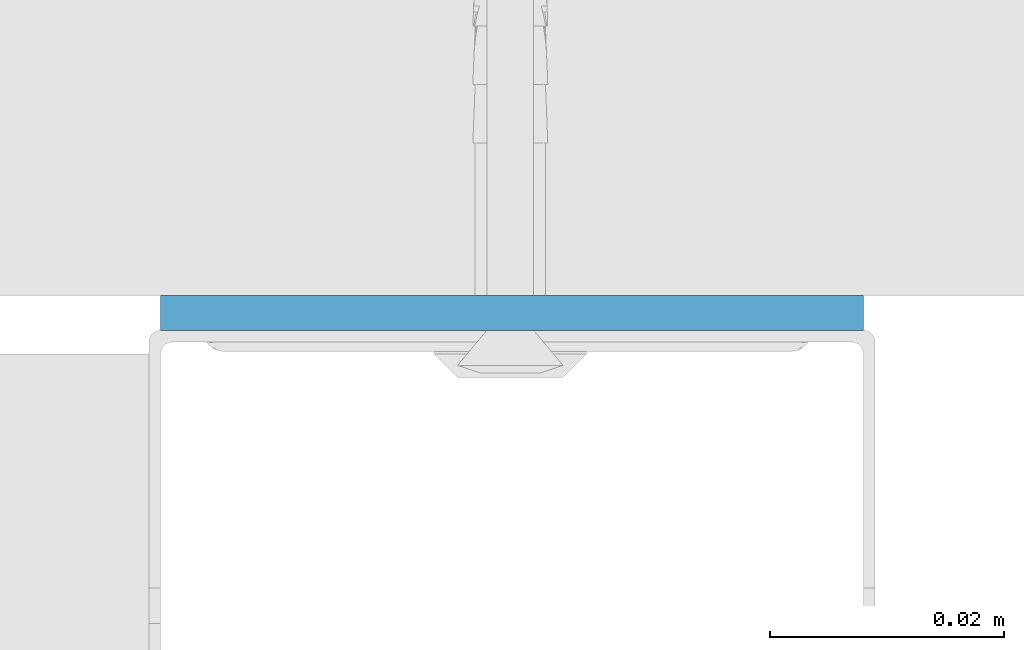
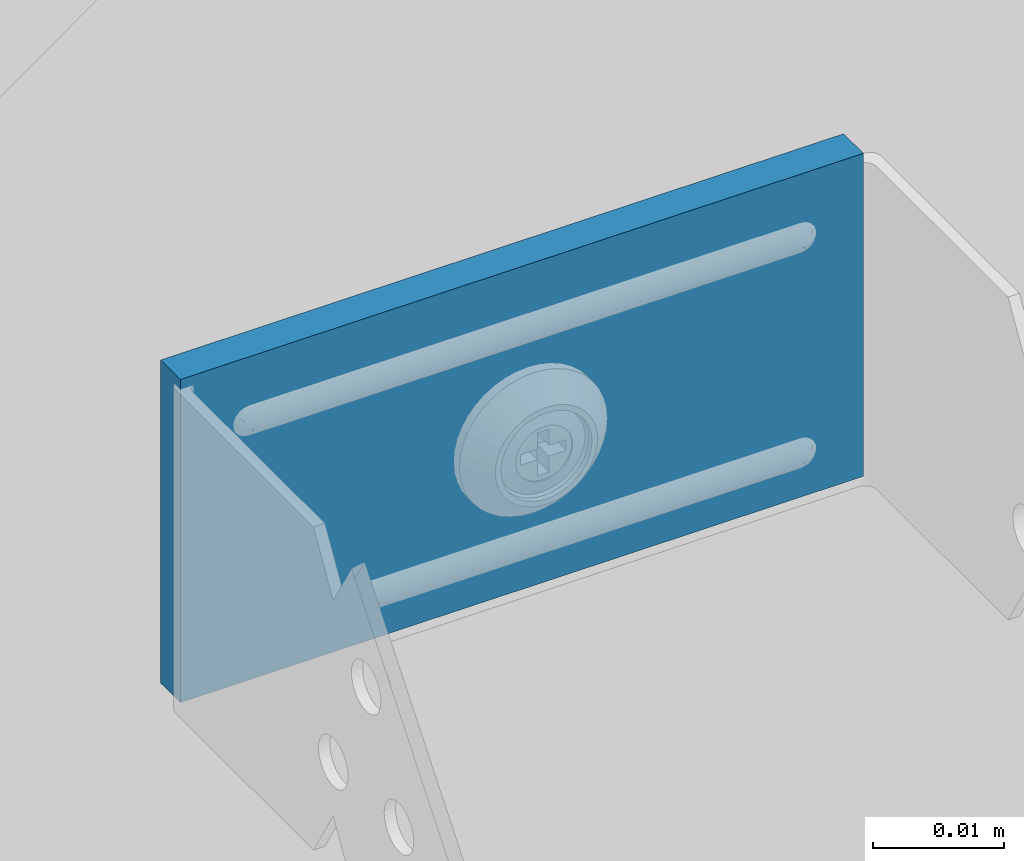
# One storey, part 43 of 48: 1 wall.
"""IFC2X3 building model written with IfcOpenShell, lengths in millimetres."""

from ifc_helpers import new_model, entity, si_unit, converted_unit, direction, frame, origin, origin_with_axes, place, context, project, spatial, faceted_brep, element, save


model = new_model("IFC2X3")

# Units and contexts
model_context = context("Model", 3, precision=1e-05, world=origin(), true_north=direction((0.0, 1.0, 0.0)))
ifc_project = project(units=[si_unit("LENGTHUNIT", "METRE", prefix="MILLI"), si_unit("AREAUNIT", "SQUARE_METRE"), si_unit("VOLUMEUNIT", "CUBIC_METRE"), converted_unit("PLANEANGLEUNIT", "DEGREE", entity("IfcPlaneAngleMeasure", 0.01745), si_unit("PLANEANGLEUNIT", "RADIAN"), dimensions=[0, 0, 0, 0, 0, 0, 0]), si_unit("SOLIDANGLEUNIT", "STERADIAN"), si_unit("MASSUNIT", "GRAM"), si_unit("TIMEUNIT", "SECOND"), si_unit("THERMODYNAMICTEMPERATUREUNIT", "DEGREE_CELSIUS"), si_unit("LUMINOUSINTENSITYUNIT", "LUMEN")], contexts=[model_context])

# Site, building, storey
site_placement = place(None, origin_with_axes())
site = spatial("IfcSite", under=ifc_project, at=site_placement, Name="Default Site", CompositionType="ELEMENT")
building_placement = place(site_placement, origin_with_axes())
building = spatial("IfcBuilding", under=site, at=building_placement, Name="Default Building", CompositionType="ELEMENT")
storey_placement = place(building_placement, origin_with_axes())
storey = spatial("IfcBuildingStorey", under=building, at=storey_placement, Name="Default Building Storey", CompositionType="ELEMENT", Elevation=0.0)

# Wall
wall_placement = place(storey_placement, frame((3455.939502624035, 2019.140922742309, 1121.101645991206), z_axis=(0.0, 0.0, 1.0), x_axis=(1.0, 0.0, 0.0)))
element("IfcWall", 1, at=wall_placement, inside=storey, Name="Taśma uszczelniająca piankowa RIGIPS szer.30mm", context=model_context, shape_type="Brep", body=[
    faceted_brep([(59.99999999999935, 0.0, 4.511946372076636e-12), (0.0, 0.0, 0.0), (1.082867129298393e-12, -2.237925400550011e-11, -30.00000000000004), (60.00000000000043, -2.237925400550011e-11, -29.99999999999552), (0.0, 3.00000000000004, 0.0), (1.082867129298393e-12, 2.999999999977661, -30.00000000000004), (60.00000000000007, 3.00000000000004, 0.0), (60.00000000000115, 2.999999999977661, -30.00000000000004)], [[[0, 1, 2, 3]], [[1, 4, 5, 2]], [[4, 6, 7, 5]], [[6, 0, 3, 7]], [[7, 3, 2, 5]], [[0, 6, 4, 1]]]),
])

save(model, "model.ifc")
